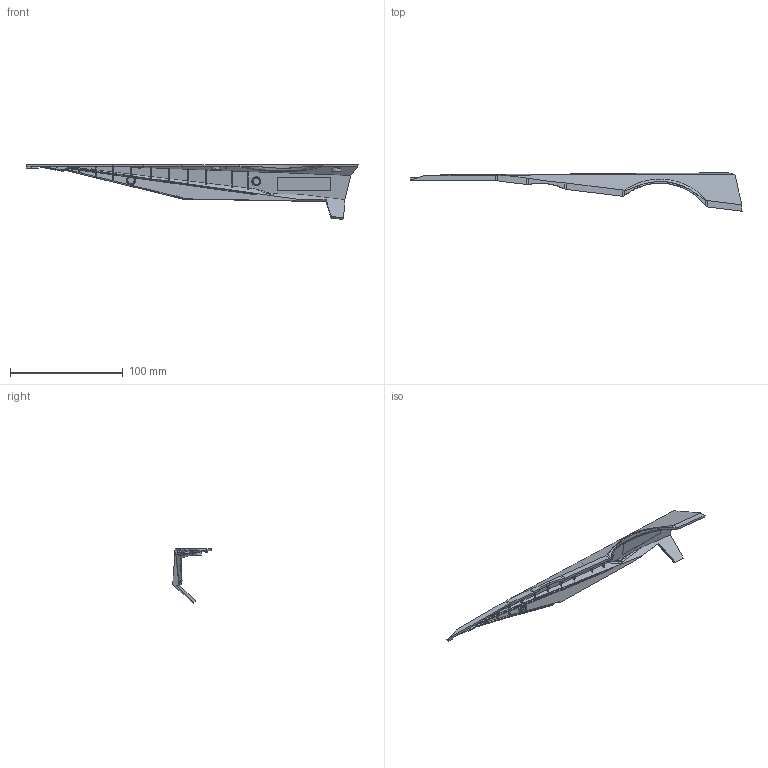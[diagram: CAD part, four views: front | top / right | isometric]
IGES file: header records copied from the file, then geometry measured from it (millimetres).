
Start section: SolidWorks IGES file using analytic representation for surfaces
Global section: file name: C:\Users\Automoton\Desktop\XFX SWFT 3D Printing Assets\SWFT 2025 No Branding 3625.IGS; native system: SolidWorks 2023; preprocessor: SolidWorks 2023; author: Automoton; date: 250306.205413; units: millimetre
Bounding box: 294.4 x 34.16 x 48.6 mm (x, y, z)
Surface area: 21956.4 mm2 (no closed solid volume)
Topology: 0 solids, 0 shells, 229 faces, 2065 edges, 2061 vertices
Faces by surface type: bspline 195, revolution 34
